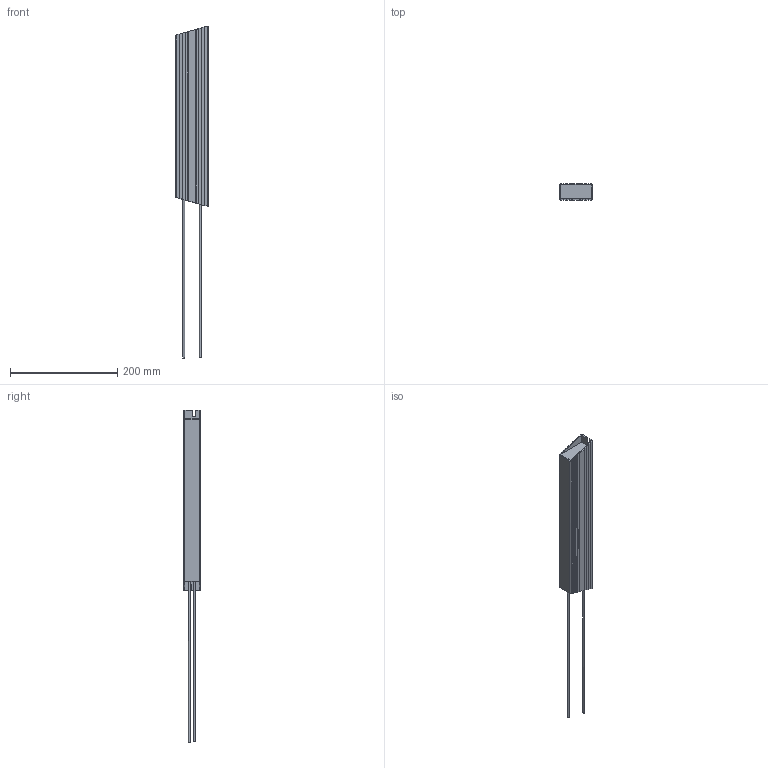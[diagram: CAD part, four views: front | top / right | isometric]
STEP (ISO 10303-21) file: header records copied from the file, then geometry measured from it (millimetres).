
FILE_DESCRIPTION(/* description */ (''),/* implementation_level */ '2;1');
FILE_NAME(/* name */ 'C:\_Vault\Dati\CATALOGO\RFP\UL2014-Def\RFP V 500.stp',/* time_stamp */ '2014-03-24T16:09:53+01:00',/* author */ ('stefano'),/* organization */ (''),/* preprocessor_version */ 'ST-DEVELOPER v15.2',/* originating_system */ 'Autodesk Inventor 2014',/* authorisation */ '');
FILE_SCHEMA (('AUTOMOTIVE_DESIGN { 1 0 10303 214 3 1 1 }'));
Length unit declared in the file: millimetre
Products named in the file (1): RFP V 500
Bounding box: 60 x 31 x 619.8 mm (x, y, z)
Volume: 273334.4 mm3; surface area: 355679.8 mm2
Topology: 2 solids, 4 shells, 525 faces, 1567 edges, 976 vertices
Faces by surface type: plane 302, cylinder 149, bspline 42, torus 20, cone 8, sphere 4
Full cylindrical faces by diameter (mm): 1 x23, 1.5 x12, 1.8 x8, 1.95 x2, 3.1 x6, 3.2 x4, 3.4 x2
Entity records: 20096 total; most frequent: CARTESIAN_POINT 5905, ORIENTED_EDGE 2892, DIRECTION 2703, EDGE_CURVE 1425, VERTEX_POINT 940, LINE 935, VECTOR 935, AXIS2_PLACEMENT_3D 884
